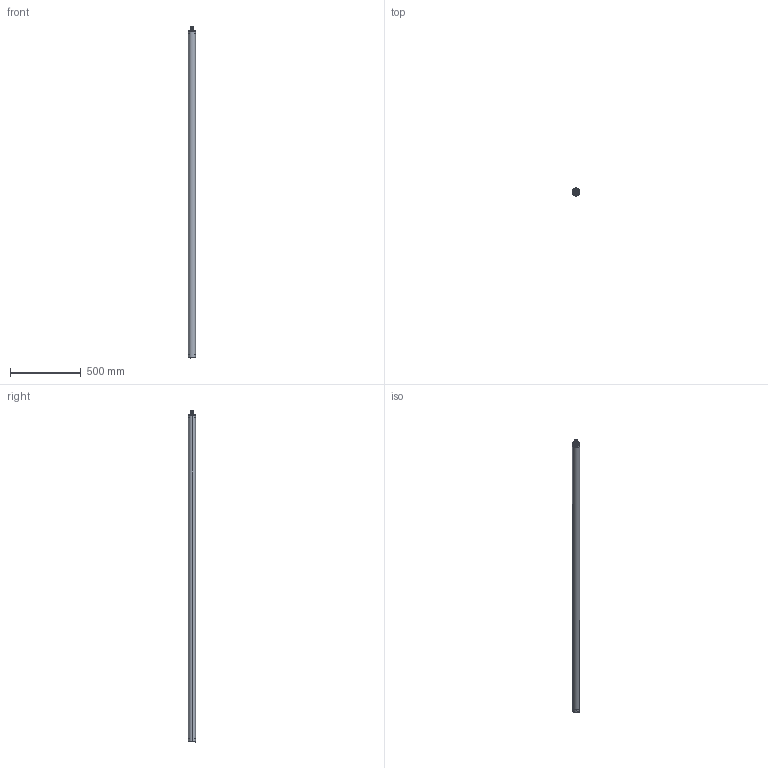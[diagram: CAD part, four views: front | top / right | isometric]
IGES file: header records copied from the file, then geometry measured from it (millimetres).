
Start section: SolidWorks IGES file using analytic representation for surfaces
Global section: file name: C:\Users\JoãoSantos\Desktop\02_3D.2D\01_2020\02_Linear\02_Tubo\01_Tubo_50\Normal\TUBO_50_2312.IGS; native system: SolidWorks 2020; preprocessor: SolidWorks 2020; author: JoãoSantos; date: 201020.171419; units: millimetre
Bounding box: 53 x 53 x 2344.7 mm (x, y, z)
Surface area: 738652.4 mm2 (no closed solid volume)
Topology: 0 solids, 0 shells, 1394 faces, 12359 edges, 12299 vertices
Faces by surface type: revolution 740, bspline 654
